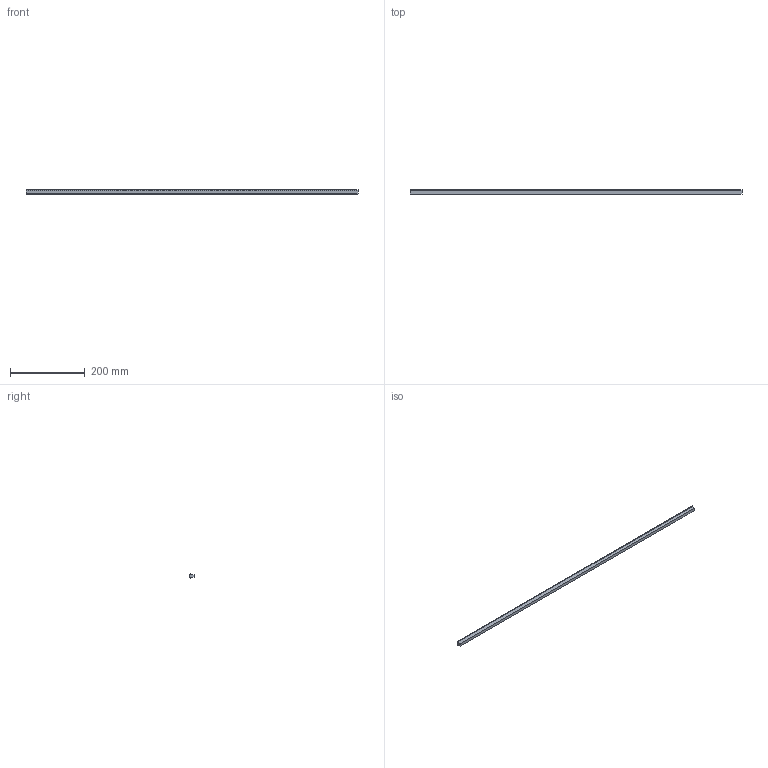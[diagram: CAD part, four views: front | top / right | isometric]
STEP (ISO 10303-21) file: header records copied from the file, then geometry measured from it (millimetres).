
FILE_DESCRIPTION(/* description */ (''),/* implementation_level */ '2;1');
FILE_NAME(/* name */ 'Pos0-Antislip-Rubber-0st_D',/* time_stamp */ '2024-08-06T13:37:43+02:00',/* author */ (''),/* organization */ (''),/* preprocessor_version */ 'ST-DEVELOPER v16.5',/* originating_system */ 'HiCAD 2024 2901.2 Build 361',/* authorisation */ '');
FILE_SCHEMA (('AUTOMOTIVE_DESIGN { 1 0 10303 214 1 1 1 1 }'));
Length unit declared in the file: millimetre
Products named in the file (1): Pos0-Antislip-Rubber-0st
Bounding box: 888.28 x 12 x 12 mm (x, y, z)
Volume: 88827.6 mm3; surface area: 40755.9 mm2
Topology: 1 solids, 1 shells, 10 faces, 24 edges, 16 vertices
Faces by surface type: plane 10
Entity records: 546 total; most frequent: CARTESIAN_POINT 50, PRESENTATION_STYLE_ASSIGNMENT 49, COLOUR_RGB 49, DRAUGHTING_PRE_DEFINED_CURVE_FONT 48, CURVE_STYLE 48, OVER_RIDING_STYLED_ITEM 48, ORIENTED_EDGE 48, DIRECTION 44
